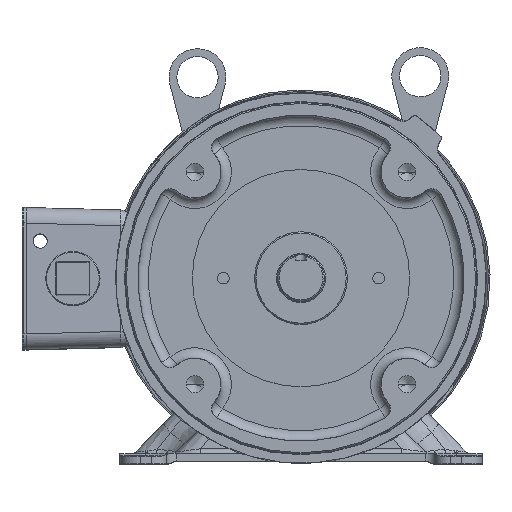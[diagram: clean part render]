
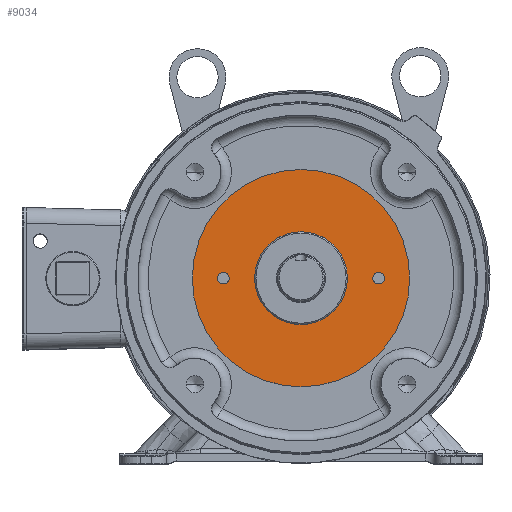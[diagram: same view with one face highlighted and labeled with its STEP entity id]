
A CAD part, top view. The second image highlights one B-rep face of the part: STEP entity #9034.
In plain terms, the highlighted planar face has unit normal (0, 0, 1).
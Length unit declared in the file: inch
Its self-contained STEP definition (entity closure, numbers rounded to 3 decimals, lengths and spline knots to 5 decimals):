
#1785=CARTESIAN_POINT('',(0.,0.,-0.51));
#1786=DIRECTION('',(0.,0.,1.));
#1787=DIRECTION('',(0.,1.,0.));
#1788=AXIS2_PLACEMENT_3D('',#1785,#1786,#1787);
#1794=CARTESIAN_POINT('',(0.,0.,-0.51));
#1795=DIRECTION('',(0.,0.,-1.));
#1796=DIRECTION('',(0.,1.,0.));
#1797=AXIS2_PLACEMENT_3D('',#1794,#1795,#1796);
#1803=CARTESIAN_POINT('',(0.,0.,-0.51));
#1804=DIRECTION('',(0.,0.,-1.));
#1805=DIRECTION('',(0.,1.,0.));
#1806=AXIS2_PLACEMENT_3D('',#1803,#1804,#1805);
#1808=CARTESIAN_POINT('',(0.,0.,-0.51));
#1809=DIRECTION('',(0.,0.,1.));
#1810=DIRECTION('',(0.,1.,0.));
#1811=AXIS2_PLACEMENT_3D('',#1808,#1809,#1810);
#1813=CARTESIAN_POINT('',(-1.875,0.,-0.51));
#1814=DIRECTION('',(0.,0.,1.));
#1815=DIRECTION('',(1.,0.,0.));
#1816=AXIS2_PLACEMENT_3D('',#1813,#1814,#1815);
#1818=CARTESIAN_POINT('',(-1.875,0.,-0.51));
#1819=DIRECTION('',(0.,0.,1.));
#1820=DIRECTION('',(-1.,0.,0.));
#1821=AXIS2_PLACEMENT_3D('',#1818,#1819,#1820);
#1823=CARTESIAN_POINT('',(1.875,0.,-0.51));
#1824=DIRECTION('',(0.,0.,1.));
#1825=DIRECTION('',(1.,0.,0.));
#1826=AXIS2_PLACEMENT_3D('',#1823,#1824,#1825);
#1828=CARTESIAN_POINT('',(1.875,0.,-0.51));
#1829=DIRECTION('',(0.,0.,1.));
#1830=DIRECTION('',(-1.,0.,0.));
#1831=AXIS2_PLACEMENT_3D('',#1828,#1829,#1830);
#7121=CARTESIAN_POINT('',(0.,2.625,-0.51));
#7122=CARTESIAN_POINT('',(0.,-2.625,-0.51));
#7123=VERTEX_POINT('',#7121);
#7124=VERTEX_POINT('',#7122);
#7129=CARTESIAN_POINT('',(0.,1.1205,-0.51));
#7130=VERTEX_POINT('',#7129);
#7131=CARTESIAN_POINT('',(0.,-1.1205,-0.51));
#7132=VERTEX_POINT('',#7131);
#7137=CARTESIAN_POINT('',(-1.7345,0.,-0.51));
#7138=CARTESIAN_POINT('',(-2.0155,0.,-0.51));
#7139=VERTEX_POINT('',#7137);
#7140=VERTEX_POINT('',#7138);
#7141=CARTESIAN_POINT('',(2.0155,0.,-0.51));
#7142=CARTESIAN_POINT('',(1.7345,0.,-0.51));
#7143=VERTEX_POINT('',#7141);
#7144=VERTEX_POINT('',#7142);
#9007=CARTESIAN_POINT('',(0.,0.,-0.51));
#9008=DIRECTION('',(0.,0.,1.));
#9009=DIRECTION('',(0.,1.,0.));
#9010=AXIS2_PLACEMENT_3D('',#9007,#9008,#9009);
#9011=PLANE('',#9010);
#9012=ORIENTED_EDGE('',*,*,#8987,.F.);
#9013=ORIENTED_EDGE('',*,*,#9001,.T.);
#9014=EDGE_LOOP('',(#9012,#9013));
#9015=FACE_OUTER_BOUND('',#9014,.F.);
#9017=ORIENTED_EDGE('',*,*,#9016,.F.);
#9019=ORIENTED_EDGE('',*,*,#9018,.T.);
#9020=EDGE_LOOP('',(#9017,#9019));
#9021=FACE_BOUND('',#9020,.F.);
#9023=ORIENTED_EDGE('',*,*,#9022,.T.);
#9025=ORIENTED_EDGE('',*,*,#9024,.T.);
#9026=EDGE_LOOP('',(#9023,#9025));
#9027=FACE_BOUND('',#9026,.F.);
#9029=ORIENTED_EDGE('',*,*,#9028,.T.);
#9031=ORIENTED_EDGE('',*,*,#9030,.T.);
#9032=EDGE_LOOP('',(#9029,#9031));
#9033=FACE_BOUND('',#9032,.F.);
#9034=ADVANCED_FACE('',(#9015,#9021,#9027,#9033),#9011,.T.);
#1789=CIRCLE('',#1788,2.625);
#1798=CIRCLE('',#1797,2.625);
#1807=CIRCLE('',#1806,1.1205);
#1812=CIRCLE('',#1811,1.1205);
#1817=CIRCLE('',#1816,0.1405);
#1822=CIRCLE('',#1821,0.1405);
#1827=CIRCLE('',#1826,0.1405);
#1832=CIRCLE('',#1831,0.1405);
#8987=EDGE_CURVE('',#7123,#7124,#1789,.T.);
#9001=EDGE_CURVE('',#7123,#7124,#1798,.T.);
#9016=EDGE_CURVE('',#7130,#7132,#1807,.T.);
#9018=EDGE_CURVE('',#7130,#7132,#1812,.T.);
#9022=EDGE_CURVE('',#7139,#7140,#1817,.T.);
#9024=EDGE_CURVE('',#7140,#7139,#1822,.T.);
#9028=EDGE_CURVE('',#7143,#7144,#1827,.T.);
#9030=EDGE_CURVE('',#7144,#7143,#1832,.T.);
